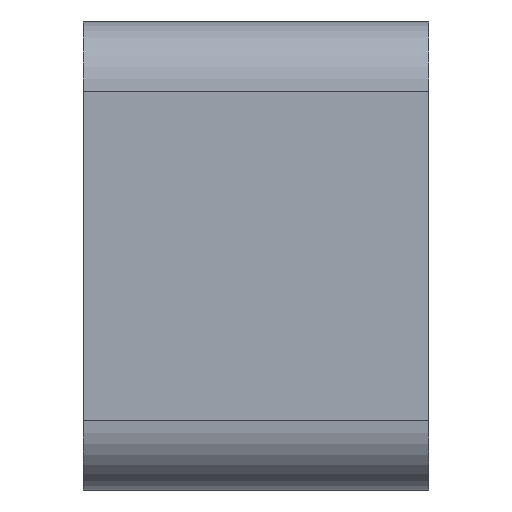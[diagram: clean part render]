
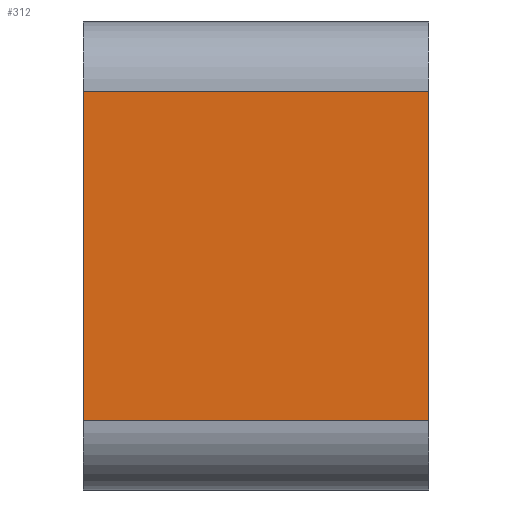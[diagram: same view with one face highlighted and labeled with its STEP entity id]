
A CAD part, top view. The second image highlights one B-rep face of the part: STEP entity #312.
In plain terms, the highlighted planar face has unit normal (0, 0, 1).
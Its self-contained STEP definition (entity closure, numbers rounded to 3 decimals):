
#26 = VECTOR ( 'NONE', #678, 1000. ) ;
#51 = AXIS2_PLACEMENT_3D ( 'NONE', #605, #604, #603 ) ;
#107 = FACE_OUTER_BOUND ( 'NONE', #1020, .T. ) ;
#110 = VECTOR ( 'NONE', #799, 1000. ) ;
#157 = VECTOR ( 'NONE', #794, 1000. ) ;
#160 = VECTOR ( 'NONE', #586, 1000. ) ;
#250 = EDGE_CURVE ( 'NONE', #499, #581, #801, .T. ) ;
#251 = EDGE_CURVE ( 'NONE', #499, #366, #798, .T. ) ;
#289 = EDGE_CURVE ( 'NONE', #581, #1056, #680, .T. ) ;
#312 = ADVANCED_FACE ( 'NONE', ( #107 ), #606, .F. ) ;
#315 = EDGE_CURVE ( 'NONE', #366, #1056, #589, .T. ) ;
#366 = VERTEX_POINT ( 'NONE', #450 ) ;
#386 = CARTESIAN_POINT ( 'NONE',  ( -6., -13.843, 0. ) ) ;
#422 = CARTESIAN_POINT ( 'NONE',  ( -6., -2.4, 0. ) ) ;
#426 = ORIENTED_EDGE ( 'NONE', *, *, #315, .F. ) ;
#430 = CARTESIAN_POINT ( 'NONE',  ( 6., -2.4, 0. ) ) ;
#450 = CARTESIAN_POINT ( 'NONE',  ( 6., -13.843, 0. ) ) ;
#499 = VERTEX_POINT ( 'NONE', #430 ) ;
#581 = VERTEX_POINT ( 'NONE', #422 ) ;
#586 = DIRECTION ( 'NONE',  ( -1., 0., 0. ) ) ;
#588 = CARTESIAN_POINT ( 'NONE',  ( 6., -13.843, 0. ) ) ;
#589 = LINE ( 'NONE', #588, #160 ) ;
#603 = DIRECTION ( 'NONE',  ( 0., 1., 0. ) ) ;
#604 = DIRECTION ( 'NONE',  ( 0., 0., -1. ) ) ;
#605 = CARTESIAN_POINT ( 'NONE',  ( 6., 0., 0. ) ) ;
#606 = PLANE ( 'NONE',  #51 ) ;
#655 = ORIENTED_EDGE ( 'NONE', *, *, #289, .T. ) ;
#678 = DIRECTION ( 'NONE',  ( 0., -1., 0. ) ) ;
#679 = CARTESIAN_POINT ( 'NONE',  ( -6., 0., 0. ) ) ;
#680 = LINE ( 'NONE', #679, #26 ) ;
#794 = DIRECTION ( 'NONE',  ( 0., -1., 0. ) ) ;
#797 = CARTESIAN_POINT ( 'NONE',  ( 6., 0., 0. ) ) ;
#798 = LINE ( 'NONE', #797, #157 ) ;
#799 = DIRECTION ( 'NONE',  ( -1., 0., 0. ) ) ;
#800 = CARTESIAN_POINT ( 'NONE',  ( 6., -2.4, 0. ) ) ;
#801 = LINE ( 'NONE', #800, #110 ) ;
#969 = ORIENTED_EDGE ( 'NONE', *, *, #250, .T. ) ;
#1020 = EDGE_LOOP ( 'NONE', ( #655, #426, #1030, #969 ) ) ;
#1030 = ORIENTED_EDGE ( 'NONE', *, *, #251, .F. ) ;
#1056 = VERTEX_POINT ( 'NONE', #386 ) ;
